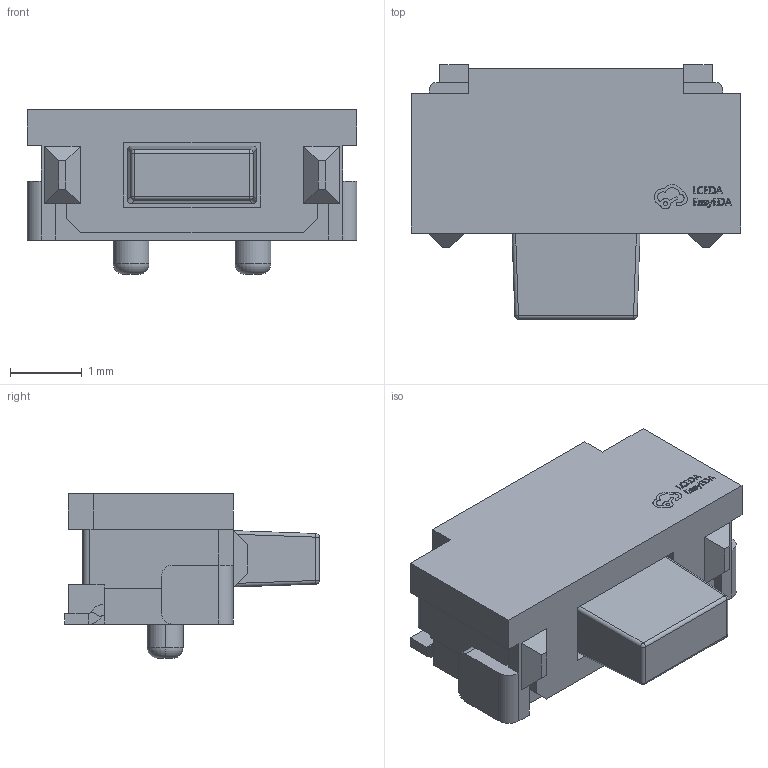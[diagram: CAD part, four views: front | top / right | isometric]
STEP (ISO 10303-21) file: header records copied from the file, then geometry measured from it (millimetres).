
FILE_DESCRIPTION (( 'STEP AP214' ), '1' );
FILE_NAME ('KEY-SMD_L4.6-W2.3-H1.8-P3.4.step', '2022-07-02T15:23:53', ( '' ), ( '' ), 'SwSTEP 2.0', 'SolidWorks 2020', '' );
FILE_SCHEMA (( 'AUTOMOTIVE_DESIGN' ));
Length unit declared in the file: millimetre
Products named in the file (1): KEY-SMD_L4.6-W2.3-H1.8-P3.4
Bounding box: 4.6 x 3.55 x 2.3 mm (x, y, z)
Volume: 18.2 mm3; surface area: 59.7 mm2
Topology: 1 solids, 1 shells, 423 faces, 1127 edges, 734 vertices
Faces by surface type: plane 273, bspline 112, cylinder 30, torus 4, sphere 4
Entity records: 18850 total; most frequent: CARTESIAN_POINT 4397, ORIENTED_EDGE 2246, DIRECTION 1581, EDGE_CURVE 1123, VECTOR 825, LINE 825, VERTEX_POINT 734, EDGE_LOOP 455
